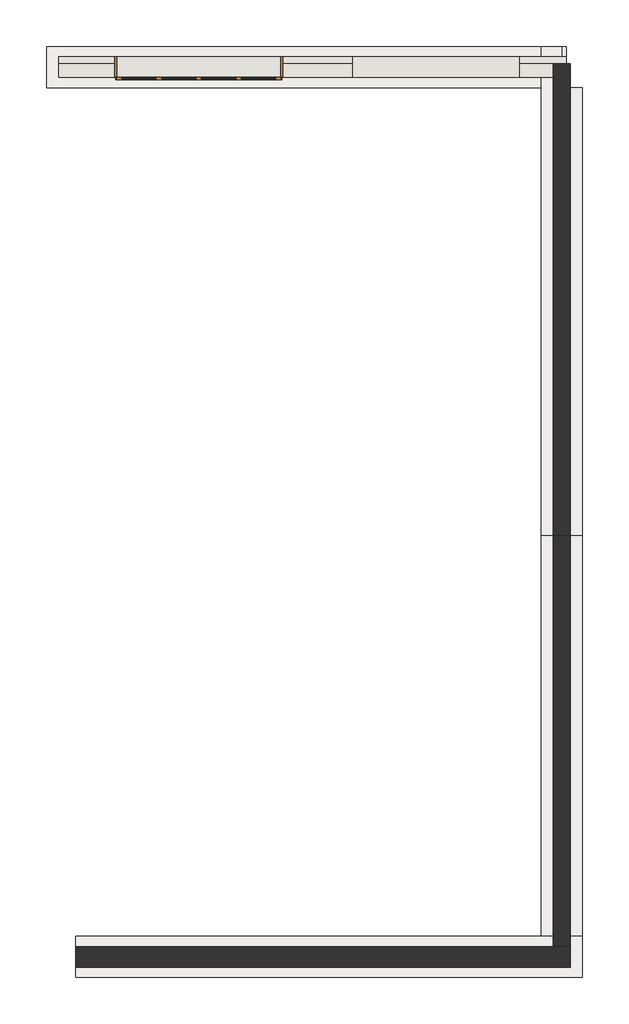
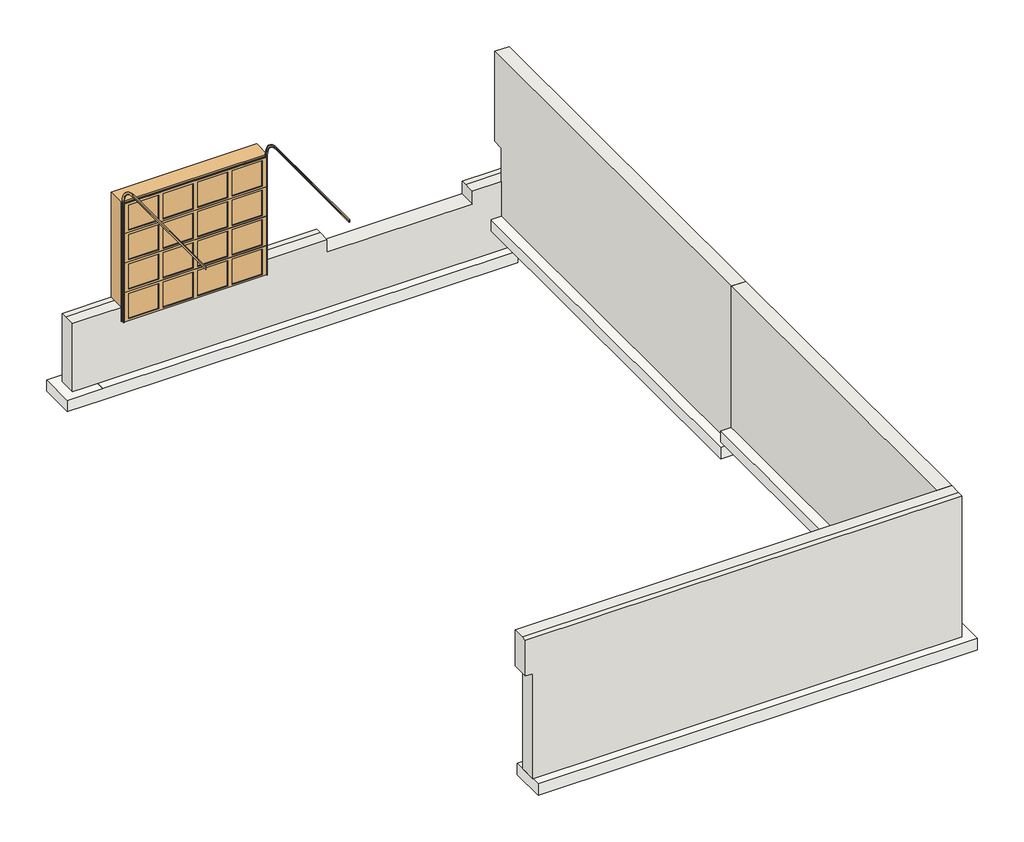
# One storey: 5 footings, 5 walls, 2 doors.
"""IFC4 building model written with IfcOpenShell, lengths in millimetres."""

from ifc_helpers import new_model, si_unit, frame, origin, place, context, project, spatial, polyline, outline, extrude, faceted_brep, transform, mapped, element, save
from components import door_7a04b6f2

model = new_model("IFC4")

# Units and contexts
model_context = context("Model", 3, world=origin())
ifc_project = project(units=[si_unit("LENGTHUNIT", "METRE", prefix="MILLI")], contexts=[model_context])

# Site, building, storey
site = spatial("IfcSite", under=ifc_project)
building = spatial("IfcBuilding", under=site)
storey = spatial("IfcBuildingStorey", under=building, Name="B - T.O. Footing", Elevation=-2266.95)

# Doors
placement = place(None, origin())
door_shape = door_7a04b6f2(model_context)
element("IfcDoor", 1, ObjectType="Door-Garage-Embossed_Panel : 96\" x 84\"", at=placement, inside=storey, context=model_context, shape_type="MappedRepresentation", body=[
    mapped(door_shape, transform((-2128.3629486, 6009.0460538, -2203.45), x_axis=(1.0, 0.0, 0.0), y_axis=(0.0, 1.0, 0.0), z_axis=(0.0, 0.0, 1.0))),
])
element("IfcDoor", 2, ObjectType="Door-Garage-Embossed_Panel : 96\" x 84\"", at=placement, inside=storey, context=model_context, shape_type="MappedRepresentation", body=[
    mapped(door_shape, transform((-2128.3629486, 6009.0460538, -2203.45), x_axis=(1.0, 0.0, 0.0), y_axis=(0.0, 1.0, 0.0), z_axis=(0.0, 0.0, 1.0))),
])

# Footings
element("IfcFooting", 3, ObjectType="Footing - 24\" x 8\"", at=placement, inside=storey, context=model_context, shape_type="Brep", body=[
    faceted_brep([(-3957.1629486, -7506.9289462, -2266.95), (-3957.1629486, -6897.3289462, -2266.95), (-3957.1629486, -6897.3289462, -2470.15), (-3957.1629486, -7506.9289462, -2470.15), (3561.2370514, -7506.9289462, -2266.95), (3561.2370514, -6897.3289462, -2266.95), (2951.6370514, -6897.3289462, -2266.95), (3561.2370514, -6897.3289462, -2470.15), (2951.6370514, -6897.3289462, -2470.15), (3561.2370514, -7506.9289462, -2470.15)], [[[0, 1, 2, 3]], [[0, 4, 5, 6, 1]], [[2, 1, 6, 5, 7, 8]], [[3, 2, 8, 7, 9]], [[0, 3, 9, 4]], [[5, 4, 9, 7]]]),
])
element("IfcFooting", 4, ObjectType="Footing - 24\" x 8\"", at=placement, inside=storey, context=model_context, shape_type="SweptSolid", body=[
    extrude(outline(polyline([(2951.6370514, -953.7289462), (3561.2370514, -953.7289462), (3561.2370514, -6897.3289462), (2951.6370514, -6897.3289462), (2951.6370514, -953.7289462)])), frame((0.0, 0.0, -2470.15), z_axis=(0.0, 0.0, 1.0), x_axis=(1.0, 0.0, 0.0)), (0.0, 0.0, 1.0), 203.2),
])
element("IfcFooting", 5, ObjectType="Footing - 24\" x 8\"", at=placement, inside=storey, context=model_context, shape_type="Brep", body=[
    faceted_brep([(3323.1120514, 6310.6710538, -3181.35), (3323.1120514, 5701.0710538, -3181.35), (3323.1120514, 5701.0710538, -3384.55), (3323.1120514, 6310.6710538, -3384.55), (-4388.9629486, 6310.6710538, -3181.35), (-4388.9629486, 5701.0710538, -3181.35), (-3779.3629486, 5701.0710538, -3181.35), (-4388.9629486, 5701.0710538, -3384.55), (-3779.3629486, 5701.0710538, -3384.55), (-4388.9629486, 6310.6710538, -3384.55)], [[[0, 1, 2, 3]], [[0, 4, 5, 6, 1]], [[2, 1, 6, 5, 7, 8]], [[3, 2, 8, 7, 9]], [[0, 3, 9, 4]], [[5, 4, 9, 7]]]),
])
element("IfcFooting", 6, ObjectType="Footing - 24\" x 8\"", at=placement, inside=storey, context=model_context, shape_type="SweptSolid", body=[
    extrude(outline(polyline([(3561.2370514, -953.7289462), (2951.6370514, -953.7289462), (2951.6370514, 5853.4710538), (3256.4370514, 5853.4710538), (3256.4370514, 5701.0710538), (3561.2370514, 5701.0710538), (3561.2370514, -953.7289462)])), frame((0.0, 0.0, -2774.95), z_axis=(0.0, 0.0, 1.0), x_axis=(1.0, 0.0, 0.0)), (0.0, 0.0, 1.0), 203.2),
    extrude(outline(polyline([(2951.6370514, 6158.2710538), (2951.6370514, 6310.6710538), (3256.4370514, 6310.6710538), (3256.4370514, 6158.2710538), (2951.6370514, 6158.2710538)])), frame((0.0, 0.0, -2774.95), z_axis=(0.0, 0.0, 1.0), x_axis=(1.0, 0.0, 0.0)), (0.0, 0.0, 1.0), 203.2),
])
element("IfcFooting", 7, ObjectType="Footing - 24\" x 8\"", at=placement, inside=storey, context=model_context, shape_type="SweptSolid", body=[
    extrude(outline(polyline([(3323.1120514, 6310.6710538), (3323.1120514, 5701.0710538), (-3779.3629486, 5701.0710538), (-3779.3629486, 6310.6710538), (3323.1120514, 6310.6710538)])), frame((0.0, 0.0, -3384.55), z_axis=(0.0, 0.0, 1.0), x_axis=(1.0, 0.0, 0.0)), (0.0, 0.0, 1.0), 203.2),
])

# Walls
element("IfcWall", 8, ObjectType="Foundation - 10\" Concrete", at=placement, inside=storey, context=model_context, shape_type="SweptSolid", body=[
    extrude(outline(polyline([(3383.4370514, -953.7289462), (3383.4370514, -7049.7289462), (3129.4370514, -7049.7289462), (3129.4370514, -953.7289462), (3383.4370514, -953.7289462)])), frame((0.0, 0.0, -2266.95), z_axis=(0.0, 0.0, 1.0), x_axis=(1.0, 0.0, 0.0)), (0.0, 0.0, 1.0), 2552.7),
])
element("IfcWall", 9, ObjectType="Foundation - 10\" Concrete", at=placement, inside=storey, context=model_context, shape_type="Brep", body=[
    faceted_brep([(3383.4370514, -953.7289462, -2571.75), (3383.4370514, 5853.4710538, -2571.75), (3383.4370514, 5853.4710538, -1339.85), (3383.4370514, 6056.6710538, -1339.85), (3383.4370514, 6056.6710538, 285.75), (3383.4370514, -953.7289462, 285.75), (3383.4370514, -953.7289462, -2266.95), (3129.4370514, -953.7289462, -2571.75), (3129.4370514, -953.7289462, -2266.95), (3129.4370514, -953.7289462, 285.75), (3129.4370514, 6056.6710538, 285.75), (3129.4370514, 6056.6710538, -1339.85), (3129.4370514, 5853.4710538, -1339.85), (3129.4370514, 5853.4710538, -1593.85), (3129.4370514, 5853.4710538, -1949.45), (3129.4370514, 5853.4710538, -2571.75), (3256.4370514, 5853.4710538, -2571.75), (3323.1120514, 6056.6710538, -1339.85), (3256.4370514, 5853.4710538, -1339.85)], [[[0, 1, 2, 3, 4, 5, 6]], [[7, 8, 9, 10, 11, 12, 13, 14, 15]], [[1, 0, 7, 15, 16]], [[5, 4, 10, 9]], [[0, 6, 5, 9, 8, 7]], [[11, 17, 3, 2, 18, 12]], [[1, 16, 15, 14, 13, 12, 18, 2]], [[3, 17, 11, 10, 4]]]),
])
element("IfcWall", 10, ObjectType="Foundation - 12\" Concrete", at=placement, inside=storey, context=model_context, shape_type="Brep", body=[
    faceted_brep([(-3957.1629486, -7354.5289462, -2266.95), (3383.4370514, -7354.5289462, -2266.95), (3383.4370514, -7354.5289462, -1657.35), (3383.4370514, -7354.5289462, 285.75), (3256.4370514, -7354.5289462, 285.75), (-4084.1629486, -7354.5289462, 285.75), (-4084.1629486, -7354.5289462, -361.95), (-3957.1629486, -7354.5289462, -361.95), (-3957.1629486, -7049.7289462, -2266.95), (-3957.1629486, -7049.7289462, -361.95), (-4084.1629486, -7049.7289462, -361.95), (-4084.1629486, -7049.7289462, 285.75), (3129.4370514, -7049.7289462, 285.75), (3256.4370514, -7049.7289462, 285.75), (3383.4370514, -7049.7289462, 285.75), (3383.4370514, -7049.7289462, -1657.35), (3383.4370514, -7049.7289462, -2266.95), (3129.4370514, -7049.7289462, -2266.95), (3383.4370514, -7252.9289462, 285.75), (-4084.1629486, -7252.9289462, 285.75)], [[[0, 1, 2, 3, 4, 5, 6, 7]], [[8, 9, 10, 11, 12, 13, 14, 15, 16, 17]], [[1, 0, 8, 17, 16]], [[18, 14, 13, 12, 11, 19]], [[5, 4, 3, 18, 19]], [[1, 16, 15, 14, 18, 3, 2]], [[6, 10, 9, 7]], [[0, 7, 9, 8]], [[5, 19, 11, 10, 6]]]),
])
element("IfcWall", 11, ObjectType="Foundation - 12\" Concrete", at=placement, inside=storey, context=model_context, shape_type="Brep", body=[
    faceted_brep([(3323.1120514, 6158.2710538, -3181.35), (-4211.1629486, 6158.2710538, -3181.35), (-4211.1629486, 6158.2710538, -1949.45), (-3372.9629486, 6158.2710538, -1949.45), (-3372.9629486, 6158.2710538, -2203.45), (-883.7629486, 6158.2710538, -2203.45), (-883.7629486, 6158.2710538, -1949.45), (144.9370514, 6158.2710538, -1949.45), (144.9370514, 6158.2710538, -2178.05), (2634.1370514, 6158.2710538, -2178.05), (2634.1370514, 6158.2710538, -1949.45), (3129.4370514, 6158.2710538, -1949.45), (3256.4370514, 6158.2710538, -1949.45), (3323.1120514, 6158.2710538, -1949.45), (-4211.1629486, 5853.4710538, -3181.35), (-3957.1629486, 5853.4710538, -3181.35), (3323.1120514, 5853.4710538, -3181.35), (3323.1120514, 5853.4710538, -1949.45), (3256.4370514, 5853.4710538, -1949.45), (3129.4370514, 5853.4710538, -1949.45), (2634.1370514, 5853.4710538, -1949.45), (2634.1370514, 5853.4710538, -2178.05), (144.9370514, 5853.4710538, -2178.05), (144.9370514, 5853.4710538, -1949.45), (-883.7629486, 5853.4710538, -1949.45), (-883.7629486, 5853.4710538, -2203.45), (-3372.9629486, 5853.4710538, -2203.45), (-3372.9629486, 5853.4710538, -1949.45), (-3957.1629486, 5853.4710538, -1949.45), (-4211.1629486, 5853.4710538, -1949.45), (3323.1120514, 6056.6710538, -1949.45), (2634.1370514, 6056.6710538, -1949.45), (144.9370514, 6056.6710538, -1949.45), (-883.7629486, 6056.6710538, -1949.45), (-4211.1629486, 6056.6710538, -1949.45), (-3372.9629486, 6056.6710538, -1949.45)], [[[0, 1, 2, 3, 4, 5, 6, 7, 8, 9, 10, 11, 12, 13]], [[14, 15, 16, 17, 18, 19, 20, 21, 22, 23, 24, 25, 26, 27, 28, 29]], [[1, 0, 16, 15, 14]], [[17, 30, 31, 20, 19, 18]], [[23, 32, 33, 24]], [[34, 29, 28, 27, 35]], [[30, 13, 12, 11, 10, 31]], [[32, 7, 6, 33]], [[2, 34, 35, 3]], [[16, 0, 13, 30, 17]], [[1, 14, 29, 34, 2]], [[9, 21, 20, 31, 10]], [[22, 8, 7, 32, 23]], [[21, 9, 8, 22]], [[5, 25, 24, 33, 6]], [[26, 4, 3, 35, 27]], [[25, 5, 4, 26]]]),
])
element("IfcWall", 12, ObjectType="Foundation - 12\" Concrete", at=placement, inside=storey, context=model_context, shape_type="Brep", body=[
    faceted_brep([(3323.1120514, 6158.2710538, -3181.35), (-4017.4879486, 6158.2710538, -3181.35), (-4211.1629486, 6158.2710538, -3181.35), (-4211.1629486, 6158.2710538, -2597.15), (-4211.1629486, 6158.2710538, -1949.45), (-3372.9629486, 6158.2710538, -1949.45), (-3372.9629486, 6158.2710538, -2203.45), (-883.7629486, 6158.2710538, -2203.45), (-883.7629486, 6158.2710538, -1949.45), (144.9370514, 6158.2710538, -1949.45), (144.9370514, 6158.2710538, -2178.05), (2634.1370514, 6158.2710538, -2178.05), (2634.1370514, 6158.2710538, -1949.45), (3129.4370514, 6158.2710538, -1949.45), (3256.4370514, 6158.2710538, -1949.45), (3323.1120514, 6158.2710538, -1949.45), (-4211.1629486, 5853.4710538, -3181.35), (-4017.4879486, 5853.4710538, -3181.35), (-3957.1629486, 5853.4710538, -3181.35), (3323.1120514, 5853.4710538, -3181.35), (3323.1120514, 5853.4710538, -1949.45), (3256.4370514, 5853.4710538, -1949.45), (3129.4370514, 5853.4710538, -1949.45), (2634.1370514, 5853.4710538, -1949.45), (2634.1370514, 5853.4710538, -2178.05), (144.9370514, 5853.4710538, -2178.05), (144.9370514, 5853.4710538, -1949.45), (-883.7629486, 5853.4710538, -1949.45), (-883.7629486, 5853.4710538, -2203.45), (-3372.9629486, 5853.4710538, -2203.45), (-3372.9629486, 5853.4710538, -1949.45), (-3957.1629486, 5853.4710538, -1949.45), (-4211.1629486, 5853.4710538, -1949.45), (-4211.1629486, 5853.4710538, -2597.15), (3323.1120514, 6056.6710538, -1949.45), (2634.1370514, 6056.6710538, -1949.45), (144.9370514, 6056.6710538, -1949.45), (-883.7629486, 6056.6710538, -1949.45), (-4211.1629486, 6056.6710538, -1949.45), (-3372.9629486, 6056.6710538, -1949.45)], [[[0, 1, 2, 3, 4, 5, 6, 7, 8, 9, 10, 11, 12, 13, 14, 15]], [[16, 17, 18, 19, 20, 21, 22, 23, 24, 25, 26, 27, 28, 29, 30, 31, 32, 33]], [[2, 1, 0, 19, 18, 17, 16]], [[0, 15, 34, 20, 19]], [[20, 34, 35, 23, 22, 21]], [[26, 36, 37, 27]], [[38, 32, 31, 30, 39]], [[34, 15, 14, 13, 12, 35]], [[36, 9, 8, 37]], [[4, 38, 39, 5]], [[11, 24, 23, 35, 12]], [[25, 10, 9, 36, 26]], [[24, 11, 10, 25]], [[7, 28, 27, 37, 8]], [[29, 6, 5, 39, 30]], [[28, 7, 6, 29]], [[2, 16, 33, 32, 38, 4, 3]]]),
])

save(model, "model.ifc")
